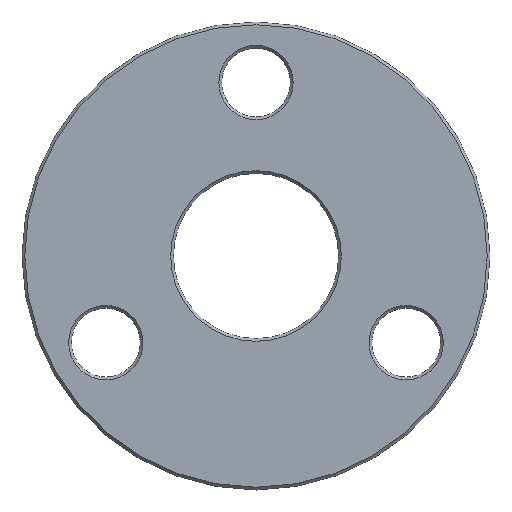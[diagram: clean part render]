
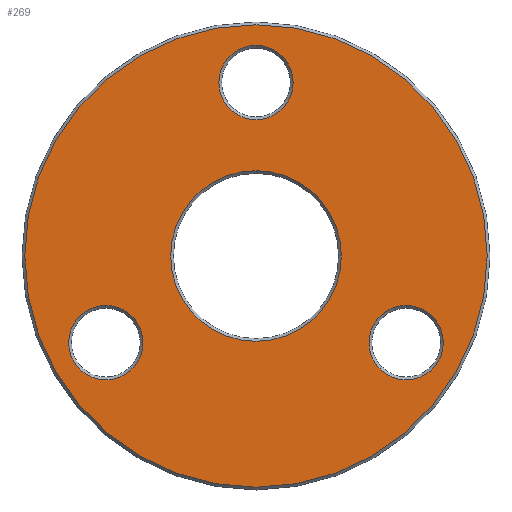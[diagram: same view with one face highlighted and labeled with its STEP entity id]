
A CAD part, top view. The second image highlights one B-rep face of the part: STEP entity #269.
In plain terms, the highlighted planar face has unit normal (0, 0, 1).
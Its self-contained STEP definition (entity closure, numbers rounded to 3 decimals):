
#15=FACE_BOUND('',#50,.T.);
#16=FACE_BOUND('',#51,.T.);
#17=FACE_BOUND('',#52,.T.);
#18=FACE_BOUND('',#53,.T.);
#23=PLANE('',#309);
#32=FACE_OUTER_BOUND('',#49,.T.);
#49=EDGE_LOOP('',(#191));
#50=EDGE_LOOP('',(#192));
#51=EDGE_LOOP('',(#193));
#52=EDGE_LOOP('',(#194));
#53=EDGE_LOOP('',(#195));
#102=CIRCLE('',#305,27.);
#105=CIRCLE('',#310,168.);
#106=CIRCLE('',#311,62.);
#107=CIRCLE('',#312,27.);
#108=CIRCLE('',#313,27.);
#124=VERTEX_POINT('',#440);
#127=VERTEX_POINT('',#450);
#128=VERTEX_POINT('',#452);
#129=VERTEX_POINT('',#454);
#130=VERTEX_POINT('',#456);
#146=EDGE_CURVE('',#124,#124,#102,.T.);
#151=EDGE_CURVE('',#127,#127,#105,.T.);
#152=EDGE_CURVE('',#128,#128,#106,.T.);
#153=EDGE_CURVE('',#129,#129,#107,.T.);
#154=EDGE_CURVE('',#130,#130,#108,.T.);
#191=ORIENTED_EDGE('',*,*,#151,.F.);
#192=ORIENTED_EDGE('',*,*,#152,.F.);
#193=ORIENTED_EDGE('',*,*,#153,.F.);
#194=ORIENTED_EDGE('',*,*,#154,.F.);
#195=ORIENTED_EDGE('',*,*,#146,.F.);
#269=ADVANCED_FACE('',(#32,#15,#16,#17,#18),#23,.T.);
#305=AXIS2_PLACEMENT_3D('',#441,#347,#348);
#309=AXIS2_PLACEMENT_3D('',#449,#357,#358);
#310=AXIS2_PLACEMENT_3D('',#451,#359,#360);
#311=AXIS2_PLACEMENT_3D('',#453,#361,#362);
#312=AXIS2_PLACEMENT_3D('',#455,#363,#364);
#313=AXIS2_PLACEMENT_3D('',#457,#365,#366);
#347=DIRECTION('center_axis',(0.,0.,1.));
#348=DIRECTION('ref_axis',(-1.,0.,0.));
#357=DIRECTION('center_axis',(0.,0.,1.));
#358=DIRECTION('ref_axis',(1.,0.,0.));
#359=DIRECTION('center_axis',(0.,0.,-1.));
#360=DIRECTION('ref_axis',(-1.,0.,0.));
#361=DIRECTION('center_axis',(0.,0.,1.));
#362=DIRECTION('ref_axis',(-1.,0.,0.));
#363=DIRECTION('center_axis',(0.,0.,1.));
#364=DIRECTION('ref_axis',(-1.,0.,0.));
#365=DIRECTION('center_axis',(0.,0.,1.));
#366=DIRECTION('ref_axis',(-1.,0.,0.));
#440=CARTESIAN_POINT('',(-82.119,-63.,20.));
#441=CARTESIAN_POINT('Origin',(-109.119,-63.,20.));
#449=CARTESIAN_POINT('Origin',(0.,0.,20.));
#450=CARTESIAN_POINT('',(168.,0.,20.));
#451=CARTESIAN_POINT('Origin',(0.,0.,20.));
#452=CARTESIAN_POINT('',(62.,0.,20.));
#453=CARTESIAN_POINT('Origin',(0.,0.,20.));
#454=CARTESIAN_POINT('',(27.,126.,20.));
#455=CARTESIAN_POINT('Origin',(0.,126.,20.));
#456=CARTESIAN_POINT('',(136.119,-63.,20.));
#457=CARTESIAN_POINT('Origin',(109.119,-63.,20.));
